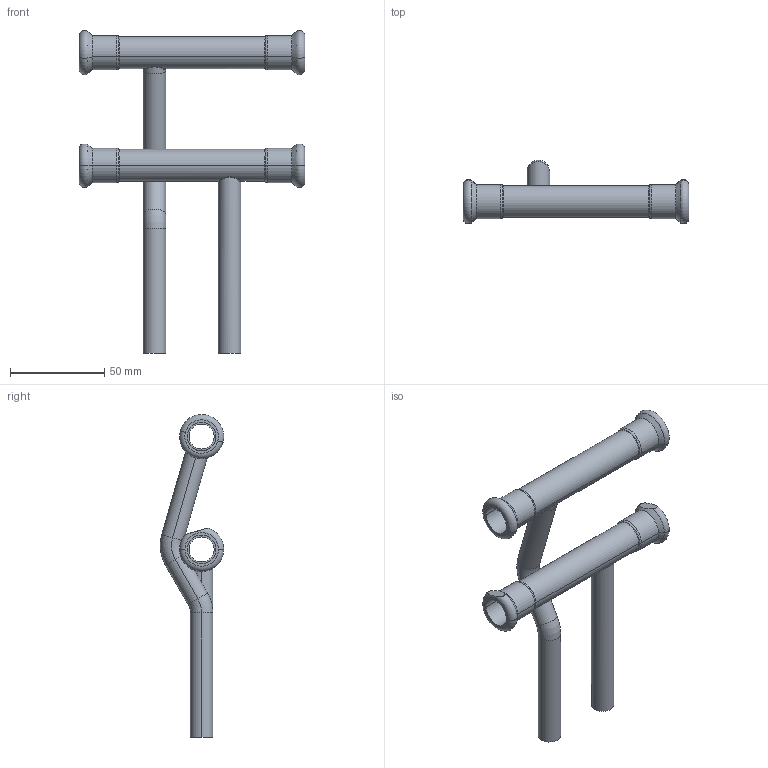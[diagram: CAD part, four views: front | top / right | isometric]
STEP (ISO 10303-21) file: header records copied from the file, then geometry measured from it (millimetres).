
FILE_DESCRIPTION(('CoCreate Modeling STEP Export'),'2;1');
FILE_NAME('C1437 15x12.stp','2015-08-13T 9:08:39',(''),(''),'CoCreate Modeling STEP processor for AP214 (Solid Model)','CoCreate Modeling 17.00A 17-Jun-2010 (C) Parametric Technology GmbH','');
FILE_SCHEMA(('AUTOMOTIVE_DESIGN { 1 0 10303 214 1 1 1 1 }'));
Length unit declared in the file: millimetre
Products named in the file (4): 620866.4.1.1.1; 620856.5.1.1.9; 620866.4.1.2; C1437-15x12
Assembly tree (3 placements, depth 2):
  C1437-15x12
    620866.4.1.2
    620856.5.1.1.9
    620866.4.1.1.1
Bounding box: 120 x 33.75 x 171.71 mm (x, y, z)
Volume: 33495.6 mm3; surface area: 41943.6 mm2
Topology: 3 solids, 3 shells, 114 faces, 244 edges, 146 vertices
Faces by surface type: cylinder 52, torus 24, plane 18, cone 16, bspline 4
Entity records: 7716 total; most frequent: CARTESIAN_POINT 5509, ORIENTED_EDGE 488, DIRECTION 378, EDGE_CURVE 244, AXIS2_PLACEMENT_3D 155, VERTEX_POINT 146, EDGE_LOOP 134, FACE_OUTER_BOUND 114
